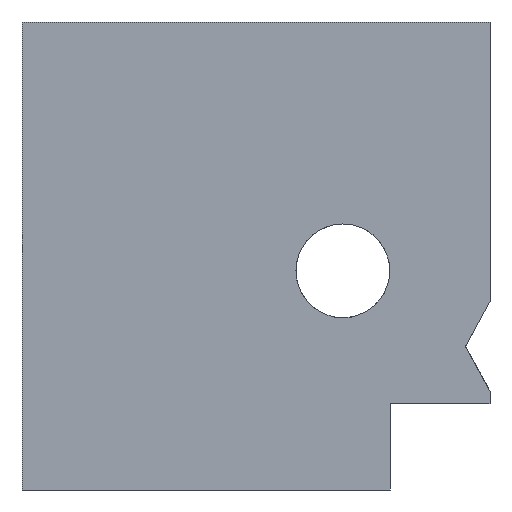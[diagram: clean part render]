
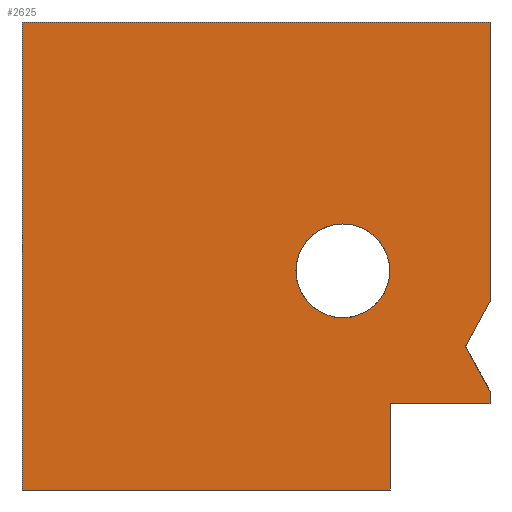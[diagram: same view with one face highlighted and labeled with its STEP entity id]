
A CAD part, left-side view. The second image highlights one B-rep face of the part: STEP entity #2625.
In plain terms, the highlighted planar face has unit normal (-1, 0, 0).
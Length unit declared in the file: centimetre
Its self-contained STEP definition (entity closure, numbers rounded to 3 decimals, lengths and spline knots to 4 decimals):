
#13 = FACE_BOUND ( 'NONE', #2835, .T. ) ;
#16 = ORIENTED_EDGE ( 'NONE', *, *, #2165, .F. ) ;
#36 = DIRECTION ( 'NONE',  ( 0., 0., -1. ) ) ;
#41 = CARTESIAN_POINT ( 'NONE',  ( 0., 314.3341, 468.3224 ) ) ;
#78 = DIRECTION ( 'NONE',  ( 0., 0., 1. ) ) ;
#112 = VERTEX_POINT ( 'NONE', #697 ) ;
#136 = ORIENTED_EDGE ( 'NONE', *, *, #1783, .F. ) ;
#212 = VECTOR ( 'NONE', #1501, 100. ) ;
#260 = CARTESIAN_POINT ( 'NONE',  ( 0., 0., 211.0674 ) ) ;
#261 = EDGE_LOOP ( 'NONE', ( #1264, #1858, #792, #2123, #16, #136, #2815, #2607, #964 ) ) ;
#304 = DIRECTION ( 'NONE',  ( 0., -1., 0. ) ) ;
#340 = VERTEX_POINT ( 'NONE', #1436 ) ;
#349 = CARTESIAN_POINT ( 'NONE',  ( 0., 212.8791, 0. ) ) ;
#485 = CARTESIAN_POINT ( 'NONE',  ( 0., 212.8791, 184.7714 ) ) ;
#532 = EDGE_CURVE ( 'NONE', #2016, #340, #1502, .T. ) ;
#568 = CARTESIAN_POINT ( 'NONE',  ( 0., 1000., 0. ) ) ;
#594 = DIRECTION ( 'NONE',  ( 0., 0., 1. ) ) ;
#610 = LINE ( 'NONE', #2508, #2683 ) ;
#651 = AXIS2_PLACEMENT_3D ( 'NONE', #1690, #1657, #2901 ) ;
#659 = EDGE_CURVE ( 'NONE', #2187, #1986, #610, .T. ) ;
#697 = CARTESIAN_POINT ( 'NONE',  ( 0., 0., 184.7714 ) ) ;
#706 = VERTEX_POINT ( 'NONE', #1544 ) ;
#725 = LINE ( 'NONE', #2610, #1406 ) ;
#792 = ORIENTED_EDGE ( 'NONE', *, *, #2776, .F. ) ;
#853 = EDGE_CURVE ( 'NONE', #1064, #112, #2564, .T. ) ;
#907 = CARTESIAN_POINT ( 'NONE',  ( 0., 0., 1000. ) ) ;
#964 = ORIENTED_EDGE ( 'NONE', *, *, #1527, .T. ) ;
#1008 = EDGE_CURVE ( 'NONE', #1910, #706, #1358, .T. ) ;
#1010 = DIRECTION ( 'NONE',  ( -1., 0., 0. ) ) ;
#1064 = VERTEX_POINT ( 'NONE', #485 ) ;
#1245 = DIRECTION ( 'NONE',  ( 0., 0., 1. ) ) ;
#1264 = ORIENTED_EDGE ( 'NONE', *, *, #2477, .T. ) ;
#1358 = CIRCLE ( 'NONE', #1599, 100.2321 ) ;
#1406 = VECTOR ( 'NONE', #1673, 100. ) ;
#1411 = PLANE ( 'NONE',  #651 ) ;
#1414 = VERTEX_POINT ( 'NONE', #2025 ) ;
#1436 = CARTESIAN_POINT ( 'NONE',  ( 0., 1000., 0. ) ) ;
#1500 = VECTOR ( 'NONE', #2928, 100. ) ;
#1501 = DIRECTION ( 'NONE',  ( 0., 0., -1. ) ) ;
#1502 = LINE ( 'NONE', #2638, #2528 ) ;
#1527 = EDGE_CURVE ( 'NONE', #340, #2580, #1932, .T. ) ;
#1544 = CARTESIAN_POINT ( 'NONE',  ( 0., 314.3341, 368.0904 ) ) ;
#1548 = VECTOR ( 'NONE', #1930, 100. ) ;
#1599 = AXIS2_PLACEMENT_3D ( 'NONE', #41, #2674, #78 ) ;
#1639 = VECTOR ( 'NONE', #594, 100. ) ;
#1657 = DIRECTION ( 'NONE',  ( 1., 0., 0. ) ) ;
#1662 = LINE ( 'NONE', #2871, #1548 ) ;
#1673 = DIRECTION ( 'NONE',  ( 0., -1., 0. ) ) ;
#1690 = CARTESIAN_POINT ( 'NONE',  ( 0., 1000., 1000. ) ) ;
#1707 = AXIS2_PLACEMENT_3D ( 'NONE', #2191, #1010, #1245 ) ;
#1757 = VECTOR ( 'NONE', #2549, 100. ) ;
#1783 = EDGE_CURVE ( 'NONE', #2868, #1414, #2021, .T. ) ;
#1805 = CARTESIAN_POINT ( 'NONE',  ( 0., 0., 1000. ) ) ;
#1817 = DIRECTION ( 'NONE',  ( 0., -0.48, -0.877 ) ) ;
#1858 = ORIENTED_EDGE ( 'NONE', *, *, #853, .T. ) ;
#1910 = VERTEX_POINT ( 'NONE', #2949 ) ;
#1914 = CARTESIAN_POINT ( 'NONE',  ( 0., 1000., 1000. ) ) ;
#1930 = DIRECTION ( 'NONE',  ( 0., 0.48, -0.877 ) ) ;
#1932 = LINE ( 'NONE', #568, #2047 ) ;
#1977 = EDGE_CURVE ( 'NONE', #2016, #2868, #725, .T. ) ;
#1986 = VERTEX_POINT ( 'NONE', #260 ) ;
#1989 = CARTESIAN_POINT ( 'NONE',  ( 0., 0., 1000. ) ) ;
#1997 = EDGE_CURVE ( 'NONE', #706, #1910, #2754, .T. ) ;
#2016 = VERTEX_POINT ( 'NONE', #1914 ) ;
#2021 = LINE ( 'NONE', #1805, #212 ) ;
#2025 = CARTESIAN_POINT ( 'NONE',  ( 0., 0., 403.3957 ) ) ;
#2047 = VECTOR ( 'NONE', #304, 100. ) ;
#2075 = CARTESIAN_POINT ( 'NONE',  ( 0., 212.8791, 0. ) ) ;
#2123 = ORIENTED_EDGE ( 'NONE', *, *, #659, .F. ) ;
#2137 = ORIENTED_EDGE ( 'NONE', *, *, #1008, .F. ) ;
#2165 = EDGE_CURVE ( 'NONE', #1414, #2187, #1662, .T. ) ;
#2187 = VERTEX_POINT ( 'NONE', #2619 ) ;
#2191 = CARTESIAN_POINT ( 'NONE',  ( 0., 314.3341, 468.3224 ) ) ;
#2393 = FACE_OUTER_BOUND ( 'NONE', #261, .T. ) ;
#2477 = EDGE_CURVE ( 'NONE', #2580, #1064, #2481, .T. ) ;
#2481 = LINE ( 'NONE', #349, #1639 ) ;
#2508 = CARTESIAN_POINT ( 'NONE',  ( 0., 0., 211.0674 ) ) ;
#2528 = VECTOR ( 'NONE', #36, 100. ) ;
#2549 = DIRECTION ( 'NONE',  ( 0., -1., 0. ) ) ;
#2564 = LINE ( 'NONE', #2817, #1757 ) ;
#2580 = VERTEX_POINT ( 'NONE', #2075 ) ;
#2607 = ORIENTED_EDGE ( 'NONE', *, *, #532, .T. ) ;
#2610 = CARTESIAN_POINT ( 'NONE',  ( 0., 1000., 1000. ) ) ;
#2619 = CARTESIAN_POINT ( 'NONE',  ( 0., 52.5939, 307.2316 ) ) ;
#2625 = ADVANCED_FACE ( 'NONE', ( #13, #2393 ), #1411, .F. ) ;
#2638 = CARTESIAN_POINT ( 'NONE',  ( 0., 1000., 1000. ) ) ;
#2674 = DIRECTION ( 'NONE',  ( -1., 0., 0. ) ) ;
#2683 = VECTOR ( 'NONE', #1817, 100. ) ;
#2754 = CIRCLE ( 'NONE', #1707, 100.2321 ) ;
#2776 = EDGE_CURVE ( 'NONE', #1986, #112, #2947, .T. ) ;
#2815 = ORIENTED_EDGE ( 'NONE', *, *, #1977, .F. ) ;
#2817 = CARTESIAN_POINT ( 'NONE',  ( 0., 0., 184.7714 ) ) ;
#2835 = EDGE_LOOP ( 'NONE', ( #2137, #3000 ) ) ;
#2868 = VERTEX_POINT ( 'NONE', #907 ) ;
#2871 = CARTESIAN_POINT ( 'NONE',  ( 0., 52.5939, 307.2316 ) ) ;
#2901 = DIRECTION ( 'NONE',  ( 0., 0., -1. ) ) ;
#2928 = DIRECTION ( 'NONE',  ( 0., 0., -1. ) ) ;
#2947 = LINE ( 'NONE', #1989, #1500 ) ;
#2949 = CARTESIAN_POINT ( 'NONE',  ( 0., 314.3341, 568.5545 ) ) ;
#3000 = ORIENTED_EDGE ( 'NONE', *, *, #1997, .F. ) ;
